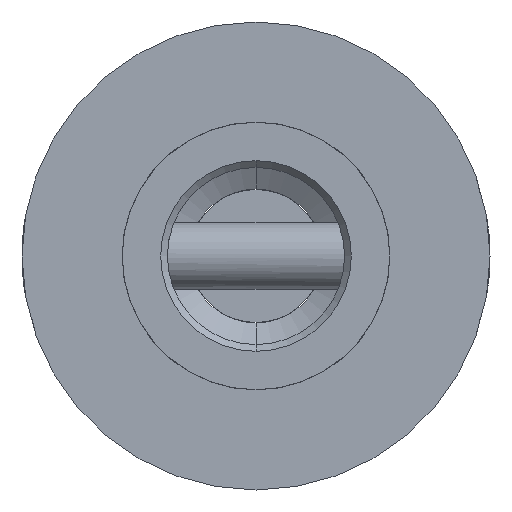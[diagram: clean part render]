
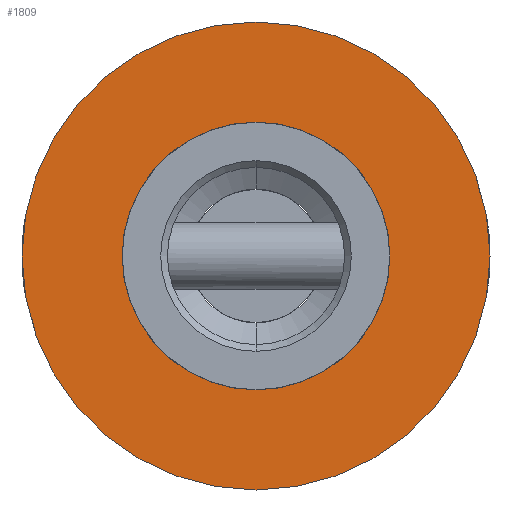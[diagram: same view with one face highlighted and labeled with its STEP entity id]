
A CAD part, front view. The second image highlights one B-rep face of the part: STEP entity #1809.
In plain terms, the highlighted planar face has unit normal (0, -1, 0).
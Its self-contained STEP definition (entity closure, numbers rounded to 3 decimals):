
#120 = CIRCLE ( 'NONE', #2118, 4.005 ) ;
#140 = DIRECTION ( 'NONE',  ( 0., 0., -1. ) ) ;
#352 = DIRECTION ( 'NONE',  ( 0., -1., 0. ) ) ;
#386 = ORIENTED_EDGE ( 'NONE', *, *, #1186, .T. ) ;
#387 = CARTESIAN_POINT ( 'NONE',  ( 0., -300., 0. ) ) ;
#391 = CARTESIAN_POINT ( 'NONE',  ( 0., -300., 4.005 ) ) ;
#461 = CARTESIAN_POINT ( 'NONE',  ( 0., -300., -4.005 ) ) ;
#593 = ORIENTED_EDGE ( 'NONE', *, *, #627, .F. ) ;
#625 = CARTESIAN_POINT ( 'NONE',  ( 0., -300., 0. ) ) ;
#627 = EDGE_CURVE ( 'NONE', #3274, #2460, #1420, .T. ) ;
#641 = DIRECTION ( 'NONE',  ( 0., -1., 0. ) ) ;
#721 = ORIENTED_EDGE ( 'NONE', *, *, #2465, .F. ) ;
#814 = ORIENTED_EDGE ( 'NONE', *, *, #817, .T. ) ;
#817 = EDGE_CURVE ( 'NONE', #3101, #1603, #2220, .T. ) ;
#930 = AXIS2_PLACEMENT_3D ( 'NONE', #1305, #1817, #1038 ) ;
#951 = DIRECTION ( 'NONE',  ( 0., 0., -1. ) ) ;
#953 = DIRECTION ( 'NONE',  ( 0., 0., -1. ) ) ;
#965 = EDGE_LOOP ( 'NONE', ( #814, #386 ) ) ;
#1038 = DIRECTION ( 'NONE',  ( 0., 0., -1. ) ) ;
#1068 = AXIS2_PLACEMENT_3D ( 'NONE', #1350, #641, #3300 ) ;
#1148 = CARTESIAN_POINT ( 'NONE',  ( 0., -300., -7. ) ) ;
#1186 = EDGE_CURVE ( 'NONE', #1603, #3101, #2824, .T. ) ;
#1305 = CARTESIAN_POINT ( 'NONE',  ( 0., -300., 0. ) ) ;
#1350 = CARTESIAN_POINT ( 'NONE',  ( 0., -300., 0. ) ) ;
#1420 = CIRCLE ( 'NONE', #2548, 4.005 ) ;
#1478 = EDGE_LOOP ( 'NONE', ( #593, #721 ) ) ;
#1595 = DIRECTION ( 'NONE',  ( 0., -1., 0. ) ) ;
#1603 = VERTEX_POINT ( 'NONE', #3048 ) ;
#1639 = AXIS2_PLACEMENT_3D ( 'NONE', #387, #352, #140 ) ;
#1751 = PLANE ( 'NONE',  #930 ) ;
#1809 = ADVANCED_FACE ( 'NONE', ( #2568, #2478 ), #1751, .T. ) ;
#1817 = DIRECTION ( 'NONE',  ( 0., -1., 0. ) ) ;
#2118 = AXIS2_PLACEMENT_3D ( 'NONE', #625, #1595, #951 ) ;
#2220 = CIRCLE ( 'NONE', #1068, 7. ) ;
#2402 = CARTESIAN_POINT ( 'NONE',  ( 0., -300., 0. ) ) ;
#2460 = VERTEX_POINT ( 'NONE', #391 ) ;
#2465 = EDGE_CURVE ( 'NONE', #2460, #3274, #120, .T. ) ;
#2478 = FACE_OUTER_BOUND ( 'NONE', #965, .T. ) ;
#2548 = AXIS2_PLACEMENT_3D ( 'NONE', #2402, #2943, #953 ) ;
#2568 = FACE_BOUND ( 'NONE', #1478, .T. ) ;
#2824 = CIRCLE ( 'NONE', #1639, 7. ) ;
#2943 = DIRECTION ( 'NONE',  ( 0., -1., 0. ) ) ;
#3048 = CARTESIAN_POINT ( 'NONE',  ( 0., -300., 7. ) ) ;
#3101 = VERTEX_POINT ( 'NONE', #1148 ) ;
#3274 = VERTEX_POINT ( 'NONE', #461 ) ;
#3300 = DIRECTION ( 'NONE',  ( 0., 0., -1. ) ) ;
